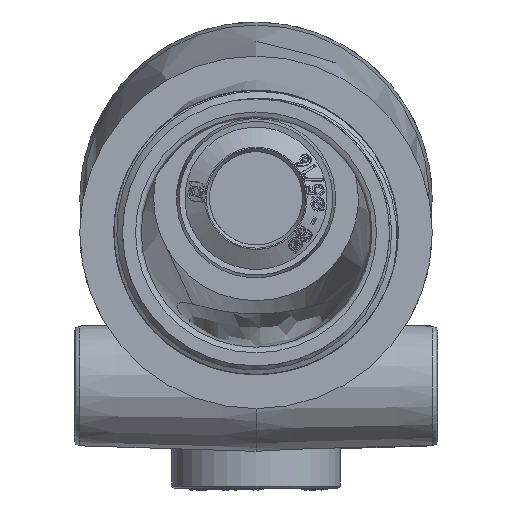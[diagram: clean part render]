
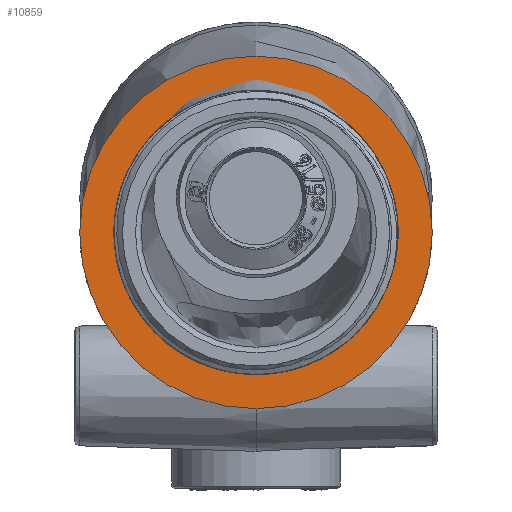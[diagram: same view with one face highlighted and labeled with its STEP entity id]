
A CAD part, left-side view. The second image highlights one B-rep face of the part: STEP entity #10859.
In plain terms, the highlighted planar face has unit normal (-1, 0, 0).
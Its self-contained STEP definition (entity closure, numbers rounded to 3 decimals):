
#10859 = ADVANCED_FACE( '', ( #15077, #15078 ), #15079, .F. );
#15077 = FACE_BOUND( '', #17272, .T. );
#15078 = FACE_OUTER_BOUND( '', #17273, .T. );
#15079 = PLANE( '', #17274 );
#17272 = EDGE_LOOP( '', ( #19622 ) );
#17273 = EDGE_LOOP( '', ( #19623 ) );
#17274 = AXIS2_PLACEMENT_3D( '', #19624, #19625, #19626 );
#19622 = ORIENTED_EDGE( '', *, *, #29725, .F. );
#19623 = ORIENTED_EDGE( '', *, *, #29726, .T. );
#19624 = CARTESIAN_POINT( '', ( -38.75, 0., 11.25 ) );
#19625 = DIRECTION( '', ( 1., 0., 0. ) );
#19626 = DIRECTION( '', ( 0., 0., -1. ) );
#29725 = EDGE_CURVE( '', #30699, #30699, #30700, .T. );
#29726 = EDGE_CURVE( '', #30701, #30701, #30702, .T. );
#30699 = VERTEX_POINT( '', #31396 );
#30700 = CIRCLE( '', #31397, 11.25 );
#30701 = VERTEX_POINT( '', #31398 );
#30702 = CIRCLE( '', #31399, 15.5 );
#31396 = CARTESIAN_POINT( '', ( -38.75, 0., 11.25 ) );
#31397 = AXIS2_PLACEMENT_3D( '', #31474, #31475, #31476 );
#31398 = CARTESIAN_POINT( '', ( -38.75, 0., 15.5 ) );
#31399 = AXIS2_PLACEMENT_3D( '', #31477, #31478, #31479 );
#31474 = CARTESIAN_POINT( '', ( -38.75, 0., 0. ) );
#31475 = DIRECTION( '', ( -1., 0., 0. ) );
#31476 = DIRECTION( '', ( 0., 0., 1. ) );
#31477 = CARTESIAN_POINT( '', ( -38.75, 0., 0. ) );
#31478 = DIRECTION( '', ( -1., 0., 0. ) );
#31479 = DIRECTION( '', ( 0., 0., 1. ) );
